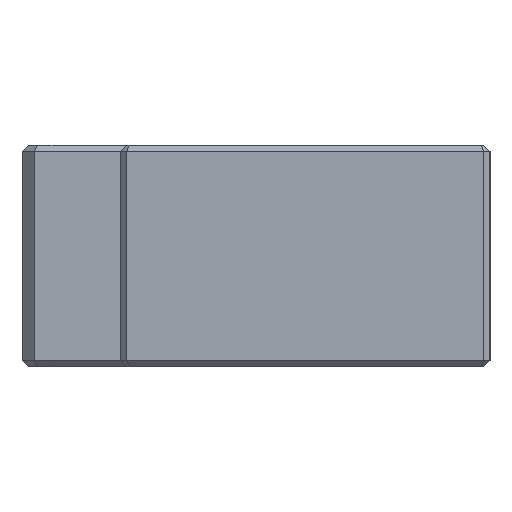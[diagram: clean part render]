
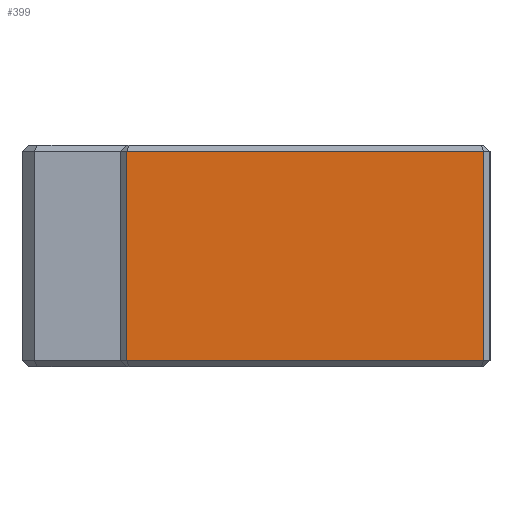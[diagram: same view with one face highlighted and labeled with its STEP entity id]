
A CAD part, left-side view. The second image highlights one B-rep face of the part: STEP entity #399.
In plain terms, the highlighted planar face has unit normal (-1, 0, 0).
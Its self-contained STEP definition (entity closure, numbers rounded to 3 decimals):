
#399 = ADVANCED_FACE ( 'NONE', ( #1302 ), #1301, .F. ) ;
#406 = EDGE_LOOP ( 'NONE', ( #450, #455, #453, #457 ) ) ;
#448 = EDGE_CURVE ( 'NONE', #451, #463, #1619, .T. ) ;
#450 = ORIENTED_EDGE ( 'NONE', *, *, #448, .T. ) ;
#451 = VERTEX_POINT ( 'NONE', #1615 ) ;
#452 = EDGE_CURVE ( 'NONE', #463, #458, #1614, .T. ) ;
#453 = ORIENTED_EDGE ( 'NONE', *, *, #454, .T. ) ;
#454 = EDGE_CURVE ( 'NONE', #458, #456, #1610, .T. ) ;
#455 = ORIENTED_EDGE ( 'NONE', *, *, #452, .T. ) ;
#456 = VERTEX_POINT ( 'NONE', #1606 ) ;
#457 = ORIENTED_EDGE ( 'NONE', *, *, #462, .T. ) ;
#458 = VERTEX_POINT ( 'NONE', #1605 ) ;
#462 = EDGE_CURVE ( 'NONE', #456, #451, #1659, .T. ) ;
#463 = VERTEX_POINT ( 'NONE', #1655 ) ;
#1297 = DIRECTION ( 'NONE',  ( 0., 0., -1. ) ) ;
#1298 = DIRECTION ( 'NONE',  ( 1., 0., 0. ) ) ;
#1299 = AXIS2_PLACEMENT_3D ( 'NONE', #1300, #1298, #1297 ) ;
#1300 = CARTESIAN_POINT ( 'NONE',  ( 0., 0., 18. ) ) ;
#1301 = PLANE ( 'NONE',  #1299 ) ;
#1302 = FACE_OUTER_BOUND ( 'NONE', #406, .T. ) ;
#1605 = CARTESIAN_POINT ( 'NONE',  ( 0., 0.5, 0.5 ) ) ;
#1606 = CARTESIAN_POINT ( 'NONE',  ( 0., 0.5, 17.5 ) ) ;
#1607 = DIRECTION ( 'NONE',  ( 0., 0., 1. ) ) ;
#1608 = VECTOR ( 'NONE', #1607, 1000. ) ;
#1609 = CARTESIAN_POINT ( 'NONE',  ( 0., 0.5, 18. ) ) ;
#1610 = LINE ( 'NONE', #1609, #1608 ) ;
#1611 = DIRECTION ( 'NONE',  ( 0., -1., 0. ) ) ;
#1612 = VECTOR ( 'NONE', #1611, 1000. ) ;
#1613 = CARTESIAN_POINT ( 'NONE',  ( 0., 0.5, 0.5 ) ) ;
#1614 = LINE ( 'NONE', #1613, #1612 ) ;
#1615 = CARTESIAN_POINT ( 'NONE',  ( 0., 29.5, 17.5 ) ) ;
#1616 = DIRECTION ( 'NONE',  ( 0., 0., -1. ) ) ;
#1617 = VECTOR ( 'NONE', #1616, 1000. ) ;
#1618 = CARTESIAN_POINT ( 'NONE',  ( 0., 29.5, 18. ) ) ;
#1619 = LINE ( 'NONE', #1618, #1617 ) ;
#1655 = CARTESIAN_POINT ( 'NONE',  ( 0., 29.5, 0.5 ) ) ;
#1656 = DIRECTION ( 'NONE',  ( 0., 1., 0. ) ) ;
#1657 = VECTOR ( 'NONE', #1656, 1000. ) ;
#1658 = CARTESIAN_POINT ( 'NONE',  ( 0., 0., 17.5 ) ) ;
#1659 = LINE ( 'NONE', #1658, #1657 ) ;
